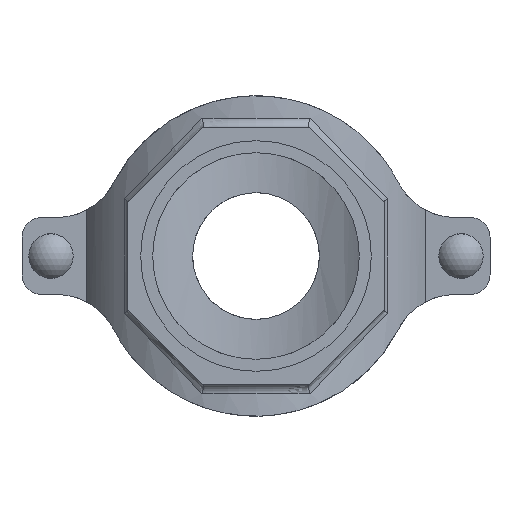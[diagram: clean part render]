
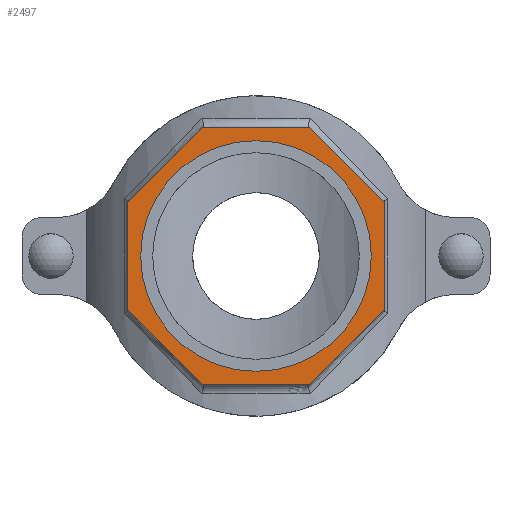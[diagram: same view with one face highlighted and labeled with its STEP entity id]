
A CAD part, front view. The second image highlights one B-rep face of the part: STEP entity #2497.
In plain terms, the highlighted planar face has unit normal (0, -1, 0) as drawn and (0, 1, 0) by its records, which use the part's own axes.
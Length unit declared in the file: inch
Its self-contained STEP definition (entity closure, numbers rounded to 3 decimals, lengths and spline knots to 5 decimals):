
#182=FACE_BOUND('',#449,.T.);
#299=FACE_OUTER_BOUND('',#448,.T.);
#448=EDGE_LOOP('',(#2094,#2095,#2096,#2097,#2098,#2099,#2100,#2101));
#449=EDGE_LOOP('',(#2102));
#586=LINE('',#4679,#770);
#589=LINE('',#4684,#773);
#591=LINE('',#4688,#775);
#593=LINE('',#4692,#777);
#627=LINE('',#5099,#811);
#629=LINE('',#5103,#813);
#631=LINE('',#5107,#815);
#633=LINE('',#5110,#817);
#770=VECTOR('',#3234,0.3937);
#773=VECTOR('',#3239,0.3937);
#775=VECTOR('',#3243,0.3937);
#777=VECTOR('',#3247,0.3937);
#811=VECTOR('',#3361,0.3937);
#813=VECTOR('',#3365,0.3937);
#815=VECTOR('',#3369,0.3937);
#817=VECTOR('',#3373,0.3937);
#901=CIRCLE('',#2754,2.25);
#1083=VERTEX_POINT('',#4676);
#1084=VERTEX_POINT('',#4678);
#1085=VERTEX_POINT('',#4682);
#1086=VERTEX_POINT('',#4686);
#1087=VERTEX_POINT('',#4690);
#1114=VERTEX_POINT('',#4924);
#1138=VERTEX_POINT('',#5098);
#1139=VERTEX_POINT('',#5102);
#1140=VERTEX_POINT('',#5106);
#1390=EDGE_CURVE('',#1084,#1083,#586,.T.);
#1393=EDGE_CURVE('',#1083,#1085,#589,.T.);
#1395=EDGE_CURVE('',#1085,#1086,#591,.T.);
#1397=EDGE_CURVE('',#1086,#1087,#593,.T.);
#1433=EDGE_CURVE('',#1114,#1114,#901,.T.);
#1465=EDGE_CURVE('',#1138,#1084,#627,.T.);
#1467=EDGE_CURVE('',#1139,#1138,#629,.T.);
#1469=EDGE_CURVE('',#1140,#1139,#631,.T.);
#1471=EDGE_CURVE('',#1087,#1140,#633,.T.);
#2094=ORIENTED_EDGE('',*,*,#1471,.T.);
#2095=ORIENTED_EDGE('',*,*,#1469,.T.);
#2096=ORIENTED_EDGE('',*,*,#1467,.T.);
#2097=ORIENTED_EDGE('',*,*,#1465,.T.);
#2098=ORIENTED_EDGE('',*,*,#1390,.T.);
#2099=ORIENTED_EDGE('',*,*,#1393,.T.);
#2100=ORIENTED_EDGE('',*,*,#1395,.T.);
#2101=ORIENTED_EDGE('',*,*,#1397,.T.);
#2102=ORIENTED_EDGE('',*,*,#1433,.T.);
#2242=PLANE('',#2777);
#2497=ADVANCED_FACE('',(#299,#182),#2242,.T.);
#2754=AXIS2_PLACEMENT_3D('',#4925,#3307,#3308);
#2777=AXIS2_PLACEMENT_3D('',#5111,#3374,#3375);
#3234=DIRECTION('',(0.,0.,1.));
#3239=DIRECTION('',(0.707,0.,0.707));
#3243=DIRECTION('',(1.,0.,0.));
#3247=DIRECTION('',(0.707,0.,-0.707));
#3307=DIRECTION('center_axis',(0.,-1.,0.));
#3308=DIRECTION('ref_axis',(-1.,0.,0.));
#3361=DIRECTION('',(-0.707,0.,0.707));
#3365=DIRECTION('',(-1.,0.,0.));
#3369=DIRECTION('',(-0.707,0.,-0.707));
#3373=DIRECTION('',(0.,0.,-1.));
#3374=DIRECTION('center_axis',(0.,1.,0.));
#3375=DIRECTION('ref_axis',(0.,0.,1.));
#4676=CARTESIAN_POINT('',(-2.5,5.75,1.03553));
#4678=CARTESIAN_POINT('',(-2.5,5.75,-1.03553));
#4679=CARTESIAN_POINT('',(-2.5,5.75,1.03553));
#4682=CARTESIAN_POINT('',(-1.03553,5.75,2.5));
#4684=CARTESIAN_POINT('',(-1.03553,5.75,2.5));
#4686=CARTESIAN_POINT('',(1.03553,5.75,2.5));
#4688=CARTESIAN_POINT('',(1.03553,5.75,2.5));
#4690=CARTESIAN_POINT('',(2.5,5.75,1.03553));
#4692=CARTESIAN_POINT('',(2.5,5.75,1.03553));
#4924=CARTESIAN_POINT('',(2.25,5.75,0.));
#4925=CARTESIAN_POINT('Origin',(0.,5.75,0.));
#5098=CARTESIAN_POINT('',(-1.03553,5.75,-2.5));
#5099=CARTESIAN_POINT('',(-2.5,5.75,-1.03553));
#5102=CARTESIAN_POINT('',(1.03553,5.75,-2.5));
#5103=CARTESIAN_POINT('',(-1.03553,5.75,-2.5));
#5106=CARTESIAN_POINT('',(2.5,5.75,-1.03553));
#5107=CARTESIAN_POINT('',(1.03553,5.75,-2.5));
#5110=CARTESIAN_POINT('',(2.5,5.75,-1.03553));
#5111=CARTESIAN_POINT('Origin',(0.,5.75,0.));
